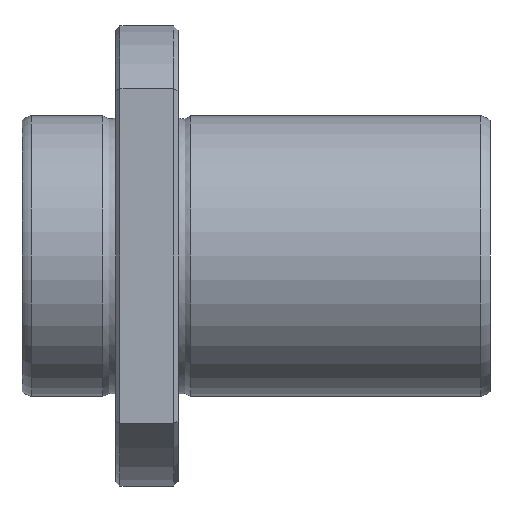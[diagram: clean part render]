
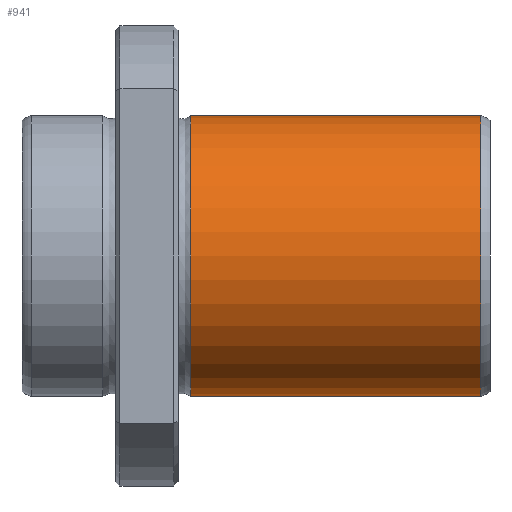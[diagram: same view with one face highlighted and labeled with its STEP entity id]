
A CAD part, front view. The second image highlights one B-rep face of the part: STEP entity #941.
In plain terms, the highlighted cylindrical face has radius 22.5 mm (diameter 45 mm), a full revolution.
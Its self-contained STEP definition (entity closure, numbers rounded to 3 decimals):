
#907=CARTESIAN_POINT('',(73.502,0.0,22.5));
#908=VERTEX_POINT('',#907);
#909=CARTESIAN_POINT('',(73.502,0.0,0.0));
#910=DIRECTION('',(-1.0,0.0,0.0));
#911=DIRECTION('',(0.0,0.0,1.0));
#912=AXIS2_PLACEMENT_3D('',#909,#910,#911);
#913=CIRCLE('',#912,22.5);
#914=EDGE_CURVE('',#908,#908,#913,.T.);
#922=CARTESIAN_POINT('',(50.262,0.0,0.0));
#923=DIRECTION('',(-1.0,0.0,0.0));
#924=DIRECTION('',(0.0,0.0,1.0));
#925=AXIS2_PLACEMENT_3D('',#922,#923,#924);
#926=CYLINDRICAL_SURFACE('',#925,22.5);
#927=CARTESIAN_POINT('',(27.023,0.0,22.5));
#928=VERTEX_POINT('',#927);
#929=CARTESIAN_POINT('',(27.023,0.0,0.0));
#930=DIRECTION('',(-1.0,0.0,0.0));
#931=DIRECTION('',(0.0,0.0,1.0));
#932=AXIS2_PLACEMENT_3D('',#929,#930,#931);
#933=CIRCLE('',#932,22.5);
#934=EDGE_CURVE('',#928,#928,#933,.T.);
#935=ORIENTED_EDGE('',*,*,#934,.F.);
#936=EDGE_LOOP('',(#935));
#937=FACE_OUTER_BOUND('',#936,.T.);
#938=ORIENTED_EDGE('',*,*,#914,.T.);
#939=EDGE_LOOP('',(#938));
#940=FACE_BOUND('',#939,.T.);
#941=ADVANCED_FACE('',(#937,#940),#926,.T.);
